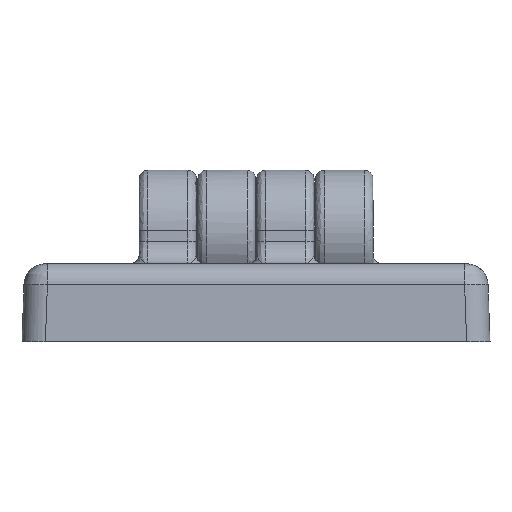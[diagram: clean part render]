
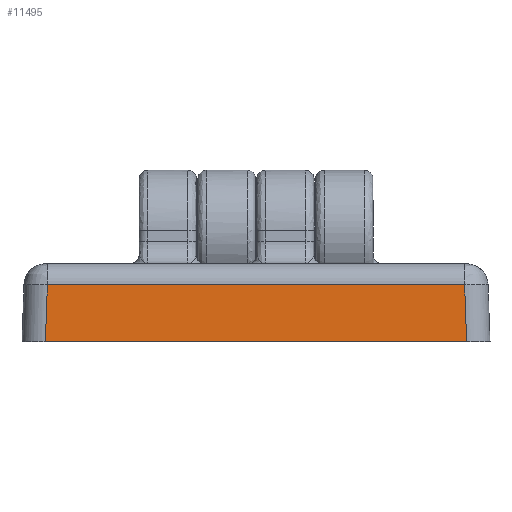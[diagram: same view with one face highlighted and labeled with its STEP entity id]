
A CAD part, left-side view. The second image highlights one B-rep face of the part: STEP entity #11495.
In plain terms, the highlighted planar face has unit normal (-0.999, 0, 0.035).
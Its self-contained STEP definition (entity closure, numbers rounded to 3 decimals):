
#241 = EDGE_LOOP ( 'NONE', ( #13866, #44144, #12209, #47486 ) ) ;
#2870 = PLANE ( 'NONE',  #49036 ) ;
#7564 = EDGE_CURVE ( 'NONE', #20538, #36709, #48935, .T. ) ;
#8835 = VECTOR ( 'NONE', #43552, 1000. ) ;
#10066 = VERTEX_POINT ( 'NONE', #46453 ) ;
#11293 = CARTESIAN_POINT ( 'NONE',  ( -40.509, 24.178, 0. ) ) ;
#11495 = ADVANCED_FACE ( 'NONE', ( #23758 ), #2870, .T. ) ;
#12209 = ORIENTED_EDGE ( 'NONE', *, *, #7564, .F. ) ;
#13061 = EDGE_CURVE ( 'NONE', #36709, #10066, #22888, .T. ) ;
#13378 = VECTOR ( 'NONE', #28011, 1000. ) ;
#13866 = ORIENTED_EDGE ( 'NONE', *, *, #14898, .T. ) ;
#14898 = EDGE_CURVE ( 'NONE', #23877, #10066, #25738, .T. ) ;
#16122 = LINE ( 'NONE', #11293, #22707 ) ;
#16682 = VECTOR ( 'NONE', #42114, 1000. ) ;
#17450 = CARTESIAN_POINT ( 'NONE',  ( -40.382, -2.697, 3.649 ) ) ;
#17858 = CARTESIAN_POINT ( 'NONE',  ( -40.509, -2.824, 0. ) ) ;
#19203 = DIRECTION ( 'NONE',  ( 0., 1., 0. ) ) ;
#19478 = CARTESIAN_POINT ( 'NONE',  ( -40.382, 24.178, 3.649 ) ) ;
#20538 = VERTEX_POINT ( 'NONE', #42887 ) ;
#22585 = CARTESIAN_POINT ( 'NONE',  ( -40.254, 50.925, 7.298 ) ) ;
#22707 = VECTOR ( 'NONE', #27625, 1000. ) ;
#22888 = LINE ( 'NONE', #38473, #8835 ) ;
#23758 = FACE_OUTER_BOUND ( 'NONE', #241, .T. ) ;
#23877 = VERTEX_POINT ( 'NONE', #17858 ) ;
#25738 = LINE ( 'NONE', #17450, #16682 ) ;
#27625 = DIRECTION ( 'NONE',  ( 0., -1., 0. ) ) ;
#28011 = DIRECTION ( 'NONE',  ( 0.035, -0.035, 0.999 ) ) ;
#36354 = DIRECTION ( 'NONE',  ( -0.999, 0., 0.035 ) ) ;
#36709 = VERTEX_POINT ( 'NONE', #22585 ) ;
#38473 = CARTESIAN_POINT ( 'NONE',  ( -40.254, 24.178, 7.298 ) ) ;
#42114 = DIRECTION ( 'NONE',  ( 0.035, 0.035, 0.999 ) ) ;
#42887 = CARTESIAN_POINT ( 'NONE',  ( -40.509, 51.179, 0. ) ) ;
#43552 = DIRECTION ( 'NONE',  ( 0., -1., 0. ) ) ;
#44144 = ORIENTED_EDGE ( 'NONE', *, *, #13061, .F. ) ;
#46453 = CARTESIAN_POINT ( 'NONE',  ( -40.254, -2.569, 7.298 ) ) ;
#47486 = ORIENTED_EDGE ( 'NONE', *, *, #49708, .T. ) ;
#48683 = CARTESIAN_POINT ( 'NONE',  ( -40.382, 51.052, 3.649 ) ) ;
#48935 = LINE ( 'NONE', #48683, #13378 ) ;
#49036 = AXIS2_PLACEMENT_3D ( 'NONE', #19478, #36354, #19203 ) ;
#49708 = EDGE_CURVE ( 'NONE', #20538, #23877, #16122, .T. ) ;
